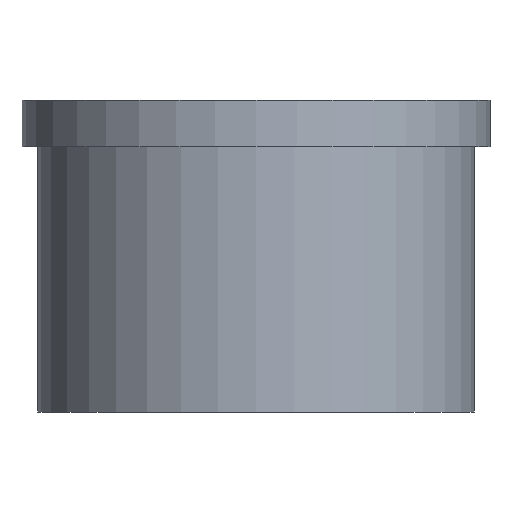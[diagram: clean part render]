
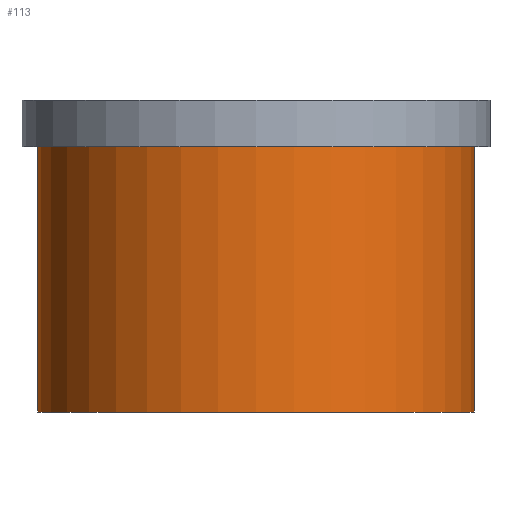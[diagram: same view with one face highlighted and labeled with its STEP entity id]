
A CAD part, front view. The second image highlights one B-rep face of the part: STEP entity #113.
In plain terms, the highlighted cylindrical face has radius 14 mm (diameter 28 mm), a partial arc.
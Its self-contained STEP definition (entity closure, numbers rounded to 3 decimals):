
#113=ADVANCED_FACE('',(#126),#120,.T.);
#120=CYLINDRICAL_SURFACE('',#249,14.);
#126=FACE_OUTER_BOUND('',#136,.T.);
#136=EDGE_LOOP('',(#179,#180,#181,#182));
#148=CIRCLE('',#244,14.);
#150=CIRCLE('',#248,14.);
#179=ORIENTED_EDGE('',*,*,#213,.F.);
#180=ORIENTED_EDGE('',*,*,#212,.T.);
#181=ORIENTED_EDGE('',*,*,#215,.T.);
#182=ORIENTED_EDGE('',*,*,#216,.F.);
#195=VERTEX_POINT('',#328);
#196=VERTEX_POINT('',#329);
#197=VERTEX_POINT('',#333);
#198=VERTEX_POINT('',#335);
#212=EDGE_CURVE('',#196,#195,#148,.T.);
#213=EDGE_CURVE('',#196,#197,#221,.T.);
#215=EDGE_CURVE('',#195,#198,#222,.T.);
#216=EDGE_CURVE('',#197,#198,#150,.T.);
#221=LINE('',#332,#227);
#222=LINE('',#336,#228);
#227=VECTOR('',#289,1.);
#228=VECTOR('',#292,1.);
#244=AXIS2_PLACEMENT_3D('',#330,#285,#286);
#248=AXIS2_PLACEMENT_3D('',#338,#295,#296);
#249=AXIS2_PLACEMENT_3D('',#339,#297,#298);
#285=DIRECTION('',(0.,0.,1.));
#286=DIRECTION('',(0.,1.,0.));
#289=DIRECTION('',(0.,0.,1.));
#292=DIRECTION('',(0.,0.,1.));
#295=DIRECTION('',(0.,0.,1.));
#296=DIRECTION('',(0.,1.,0.));
#297=DIRECTION('',(0.,0.,1.));
#298=DIRECTION('',(0.,-1.,0.));
#328=CARTESIAN_POINT('',(14.,0.,-17.));
#329=CARTESIAN_POINT('',(-14.,0.,-17.));
#330=CARTESIAN_POINT('',(0.,0.,-17.));
#332=CARTESIAN_POINT('',(-14.,0.,-17.));
#333=CARTESIAN_POINT('',(-14.,0.,0.));
#335=CARTESIAN_POINT('',(14.,0.,0.));
#336=CARTESIAN_POINT('',(14.,0.,-17.));
#338=CARTESIAN_POINT('',(0.,0.,0.));
#339=CARTESIAN_POINT('',(0.,0.,-17.));
